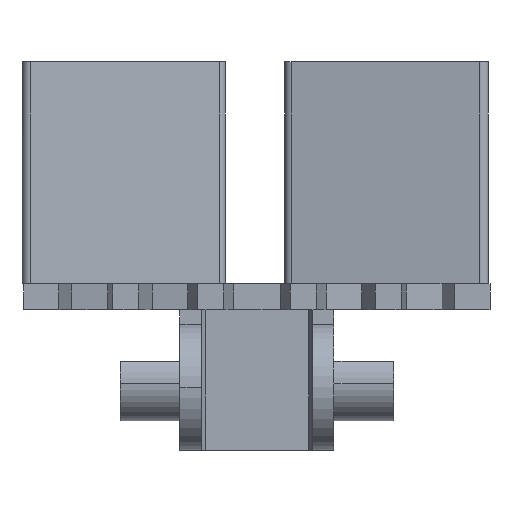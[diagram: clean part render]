
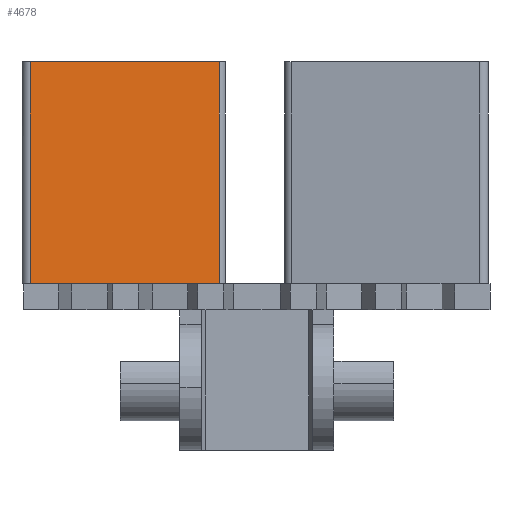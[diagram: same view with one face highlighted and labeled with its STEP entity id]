
A CAD part, front view. The second image highlights one B-rep face of the part: STEP entity #4678.
In plain terms, the highlighted planar face has unit normal (0.13, -0.992, 0).
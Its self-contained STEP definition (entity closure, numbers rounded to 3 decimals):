
#29 = DIRECTION ( 'NONE',  ( -0.991, -0.13, 0. ) ) ;
#30 = VECTOR ( 'NONE', #29, 1000. ) ;
#31 = CARTESIAN_POINT ( 'NONE',  ( 160.18, 81.161, 34.142 ) ) ;
#32 = LINE ( 'NONE', #31, #30 ) ;
#34 = CARTESIAN_POINT ( 'NONE',  ( 160.18, 81.161, 4.142 ) ) ;
#37 = CARTESIAN_POINT ( 'NONE',  ( 134.68, 77.806, 34.142 ) ) ;
#67 = CARTESIAN_POINT ( 'NONE',  ( 160.18, 81.161, 34.142 ) ) ;
#104 = CARTESIAN_POINT ( 'NONE',  ( 160.18, 81.161, 37.142 ) ) ;
#105 = LINE ( 'NONE', #104, #161 ) ;
#160 = DIRECTION ( 'NONE',  ( 0., 0., 1. ) ) ;
#161 = VECTOR ( 'NONE', #160, 1000. ) ;
#788 = VECTOR ( 'NONE', #803, 1000. ) ;
#797 = LINE ( 'NONE', #804, #788 ) ;
#803 = DIRECTION ( 'NONE',  ( 0.991, 0.13, 0. ) ) ;
#804 = CARTESIAN_POINT ( 'NONE',  ( 140.253, 78.539, 4.142 ) ) ;
#1503 = CARTESIAN_POINT ( 'NONE',  ( 160.18, 81.161, 4.142 ) ) ;
#1504 = LINE ( 'NONE', #1503, #1551 ) ;
#1506 = VECTOR ( 'NONE', #1512, 1000. ) ;
#1511 = DIRECTION ( 'NONE',  ( 0.13, -0.991, 0. ) ) ;
#1512 = DIRECTION ( 'NONE',  ( -0.991, -0.13, 0. ) ) ;
#1513 = CARTESIAN_POINT ( 'NONE',  ( 140.253, 78.539, 4.142 ) ) ;
#1515 = CARTESIAN_POINT ( 'NONE',  ( 140.253, 78.539, 4.142 ) ) ;
#1530 = CARTESIAN_POINT ( 'NONE',  ( 140.352, 78.552, 4.142 ) ) ;
#1531 = LINE ( 'NONE', #1513, #1506 ) ;
#1544 = DIRECTION ( 'NONE',  ( 0.991, 0.13, 0. ) ) ;
#1548 = PLANE ( 'NONE',  #1556 ) ;
#1549 = CARTESIAN_POINT ( 'NONE',  ( 160.18, 81.161, 37.142 ) ) ;
#1550 = DIRECTION ( 'NONE',  ( -0.991, -0.13, 0. ) ) ;
#1551 = VECTOR ( 'NONE', #1550, 1000. ) ;
#1556 = AXIS2_PLACEMENT_3D ( 'NONE', #1549, #1511, #1544 ) ;
#1563 = FACE_OUTER_BOUND ( 'NONE', #4654, .T. ) ;
#4057 = VERTEX_POINT ( 'NONE', #5589 ) ;
#4059 = EDGE_CURVE ( 'NONE', #4090, #4057, #6100, .T. ) ;
#4063 = EDGE_CURVE ( 'NONE', #4104, #4090, #32, .T. ) ;
#4090 = VERTEX_POINT ( 'NONE', #37 ) ;
#4100 = VERTEX_POINT ( 'NONE', #34 ) ;
#4104 = VERTEX_POINT ( 'NONE', #67 ) ;
#4135 = EDGE_CURVE ( 'NONE', #4100, #4104, #105, .T. ) ;
#4394 = EDGE_CURVE ( 'NONE', #4652, #4660, #797, .T. ) ;
#4402 = ORIENTED_EDGE ( 'NONE', *, *, #4394, .T. ) ;
#4652 = VERTEX_POINT ( 'NONE', #1515 ) ;
#4654 = EDGE_LOOP ( 'NONE', ( #4402, #4677, #4673, #4672, #4659, #4657 ) ) ;
#4657 = ORIENTED_EDGE ( 'NONE', *, *, #4658, .F. ) ;
#4658 = EDGE_CURVE ( 'NONE', #4652, #4057, #1531, .T. ) ;
#4659 = ORIENTED_EDGE ( 'NONE', *, *, #4059, .T. ) ;
#4660 = VERTEX_POINT ( 'NONE', #1530 ) ;
#4672 = ORIENTED_EDGE ( 'NONE', *, *, #4063, .T. ) ;
#4673 = ORIENTED_EDGE ( 'NONE', *, *, #4135, .T. ) ;
#4676 = EDGE_CURVE ( 'NONE', #4100, #4660, #1504, .T. ) ;
#4677 = ORIENTED_EDGE ( 'NONE', *, *, #4676, .F. ) ;
#4678 = ADVANCED_FACE ( 'NONE', ( #1563 ), #1548, .T. ) ;
#5589 = CARTESIAN_POINT ( 'NONE',  ( 134.68, 77.806, 4.142 ) ) ;
#6100 = LINE ( 'NONE', #6103, #6102 ) ;
#6101 = DIRECTION ( 'NONE',  ( 0., 0., -1. ) ) ;
#6102 = VECTOR ( 'NONE', #6101, 1000. ) ;
#6103 = CARTESIAN_POINT ( 'NONE',  ( 134.68, 77.806, 37.142 ) ) ;
